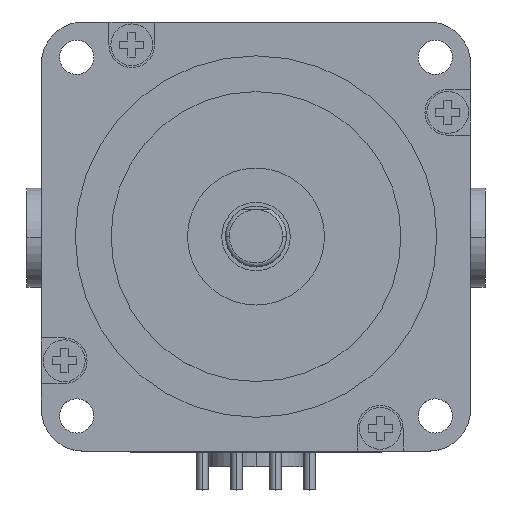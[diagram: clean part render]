
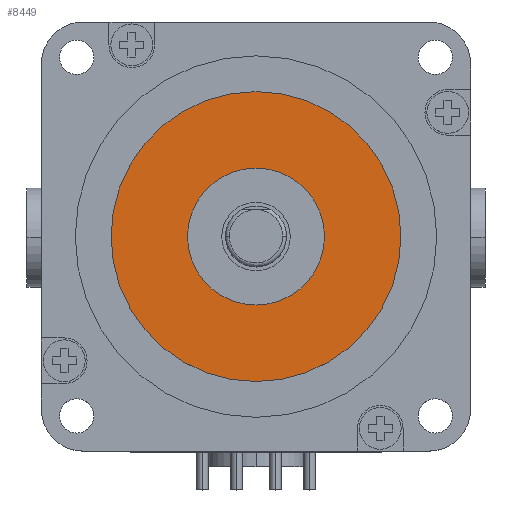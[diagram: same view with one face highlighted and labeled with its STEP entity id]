
A CAD part, top view. The second image highlights one B-rep face of the part: STEP entity #8449.
In plain terms, the highlighted planar face has unit normal (0, 0, 1).
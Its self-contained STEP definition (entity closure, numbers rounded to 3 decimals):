
#192 = CIRCLE ( 'NONE', #3390, 19.05 ) ;
#425 = DIRECTION ( 'NONE',  ( 0., 0., -1. ) ) ;
#465 = VERTEX_POINT ( 'NONE', #4578 ) ;
#987 = DIRECTION ( 'NONE',  ( -1., 0., 0. ) ) ;
#1029 = VERTEX_POINT ( 'NONE', #3034 ) ;
#1089 = DIRECTION ( 'NONE',  ( -1., 0., 0. ) ) ;
#1127 = FACE_BOUND ( 'NONE', #5381, .T. ) ;
#1594 = EDGE_CURVE ( 'NONE', #1880, #1029, #6020, .T. ) ;
#1855 = PLANE ( 'NONE',  #1935 ) ;
#1878 = CARTESIAN_POINT ( 'NONE',  ( -19.05, 0., 1.6 ) ) ;
#1880 = VERTEX_POINT ( 'NONE', #2469 ) ;
#1935 = AXIS2_PLACEMENT_3D ( 'NONE', #3855, #425, #1089 ) ;
#1999 = AXIS2_PLACEMENT_3D ( 'NONE', #8463, #5598, #4350 ) ;
#2365 = ORIENTED_EDGE ( 'NONE', *, *, #1594, .F. ) ;
#2367 = CARTESIAN_POINT ( 'NONE',  ( 0., 0., 1.6 ) ) ;
#2469 = CARTESIAN_POINT ( 'NONE',  ( 9., 0., 1.6 ) ) ;
#2711 = CIRCLE ( 'NONE', #5835, 9. ) ;
#2751 = FACE_OUTER_BOUND ( 'NONE', #3623, .T. ) ;
#3034 = CARTESIAN_POINT ( 'NONE',  ( -9., 0., 1.6 ) ) ;
#3382 = EDGE_CURVE ( 'NONE', #5351, #465, #8866, .T. ) ;
#3390 = AXIS2_PLACEMENT_3D ( 'NONE', #7020, #5748, #7143 ) ;
#3623 = EDGE_LOOP ( 'NONE', ( #5918, #4026 ) ) ;
#3801 = EDGE_CURVE ( 'NONE', #465, #5351, #192, .T. ) ;
#3855 = CARTESIAN_POINT ( 'NONE',  ( 0., 0., 1.6 ) ) ;
#3951 = DIRECTION ( 'NONE',  ( -1., 0., 0. ) ) ;
#4019 = EDGE_CURVE ( 'NONE', #1029, #1880, #2711, .T. ) ;
#4026 = ORIENTED_EDGE ( 'NONE', *, *, #3382, .T. ) ;
#4350 = DIRECTION ( 'NONE',  ( 1., 0., 0. ) ) ;
#4578 = CARTESIAN_POINT ( 'NONE',  ( 19.05, 0., 1.6 ) ) ;
#5137 = DIRECTION ( 'NONE',  ( 0., 0., 1. ) ) ;
#5187 = DIRECTION ( 'NONE',  ( 0., 0., 1. ) ) ;
#5351 = VERTEX_POINT ( 'NONE', #1878 ) ;
#5381 = EDGE_LOOP ( 'NONE', ( #7992, #2365 ) ) ;
#5515 = AXIS2_PLACEMENT_3D ( 'NONE', #8065, #5187, #3951 ) ;
#5598 = DIRECTION ( 'NONE',  ( 0., 0., 1. ) ) ;
#5748 = DIRECTION ( 'NONE',  ( 0., 0., 1. ) ) ;
#5835 = AXIS2_PLACEMENT_3D ( 'NONE', #2367, #5137, #987 ) ;
#5918 = ORIENTED_EDGE ( 'NONE', *, *, #3801, .T. ) ;
#6020 = CIRCLE ( 'NONE', #5515, 9. ) ;
#7020 = CARTESIAN_POINT ( 'NONE',  ( 0., 0., 1.6 ) ) ;
#7143 = DIRECTION ( 'NONE',  ( 1., 0., 0. ) ) ;
#7992 = ORIENTED_EDGE ( 'NONE', *, *, #4019, .F. ) ;
#8065 = CARTESIAN_POINT ( 'NONE',  ( 0., 0., 1.6 ) ) ;
#8449 = ADVANCED_FACE ( 'NONE', ( #1127, #2751 ), #1855, .F. ) ;
#8463 = CARTESIAN_POINT ( 'NONE',  ( 0., 0., 1.6 ) ) ;
#8866 = CIRCLE ( 'NONE', #1999, 19.05 ) ;
